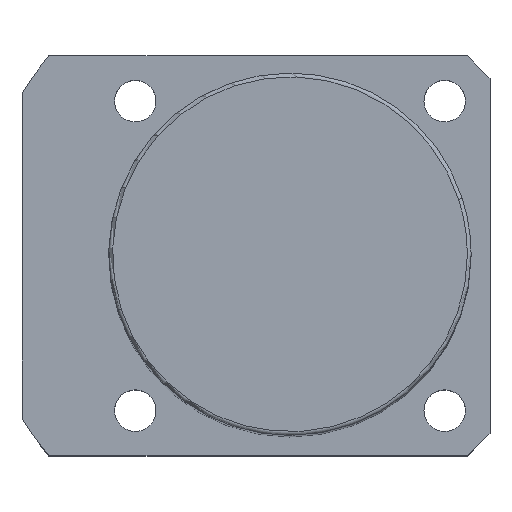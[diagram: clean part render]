
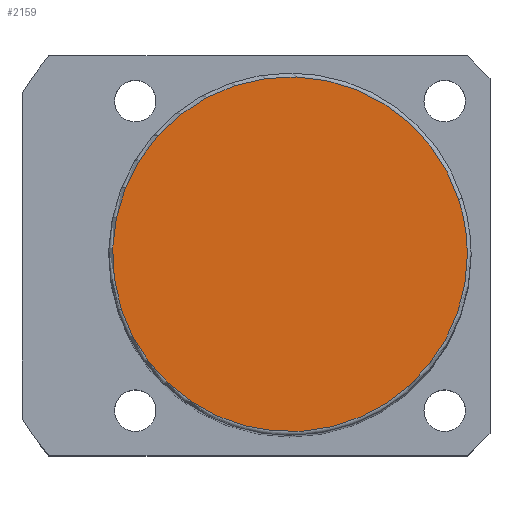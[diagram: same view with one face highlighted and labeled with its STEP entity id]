
A CAD part, top view. The second image highlights one B-rep face of the part: STEP entity #2159.
In plain terms, the highlighted planar face has unit normal (0, 0, 1).
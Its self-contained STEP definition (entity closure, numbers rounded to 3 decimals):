
#2092=CARTESIAN_POINT('',(22.35,7.262,134.0));
#2093=VERTEX_POINT('',#2092);
#2111=CARTESIAN_POINT('',(-22.35,-7.262,134.0));
#2112=VERTEX_POINT('',#2111);
#2120=CARTESIAN_POINT('',(0.0,0.0,134.0));
#2121=DIRECTION('',(0.0,0.0,1.0));
#2122=DIRECTION('',(1.0,0.0,0.0));
#2123=AXIS2_PLACEMENT_3D('',#2120,#2121,#2122);
#2124=CIRCLE('',#2123,23.5);
#2125=EDGE_CURVE('no 2147',#2093,#2112,#2124,.T.);
#2135=CARTESIAN_POINT('',(23.5,0.0,134.0));
#2136=VERTEX_POINT('',#2135);
#2137=CARTESIAN_POINT('',(0.0,0.0,134.0));
#2138=DIRECTION('',(0.0,0.0,1.0));
#2139=DIRECTION('',(1.0,0.0,0.0));
#2140=AXIS2_PLACEMENT_3D('',#2137,#2138,#2139);
#2141=CIRCLE('',#2140,23.5);
#2142=EDGE_CURVE('no 2156',#2136,#2093,#2141,.T.);
#2143=ORIENTED_EDGE('',*,*,#2142,.T.);
#2144=ORIENTED_EDGE('',*,*,#2125,.T.);
#2145=CARTESIAN_POINT('',(0.0,0.0,134.0));
#2146=DIRECTION('',(0.0,0.0,1.0));
#2147=DIRECTION('',(1.0,0.0,0.0));
#2148=AXIS2_PLACEMENT_3D('',#2145,#2146,#2147);
#2149=CIRCLE('',#2148,23.5);
#2150=EDGE_CURVE('no 2162',#2112,#2136,#2149,.T.);
#2151=ORIENTED_EDGE('',*,*,#2150,.T.);
#2152=EDGE_LOOP('',(#2143,#2144,#2151));
#2153=FACE_OUTER_BOUND('',#2152,.T.);
#2154=CARTESIAN_POINT('',(0.0,0.0,134.0));
#2155=DIRECTION('',(0.0,0.0,1.0));
#2156=DIRECTION('',(1.0,0.0,0.0));
#2157=AXIS2_PLACEMENT_3D('',#2154,#2155,#2156);
#2158=PLANE('',#2157);
#2159=ADVANCED_FACE('no 2149',(#2153),#2158,.T.);
